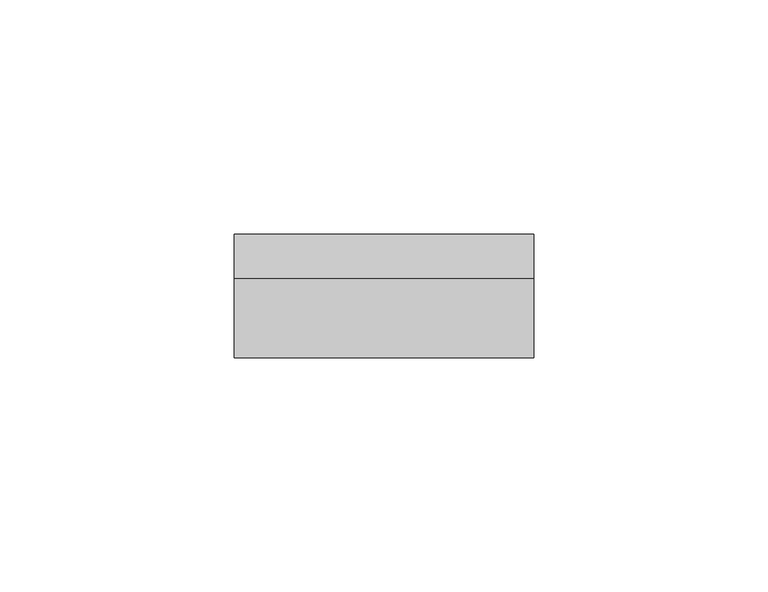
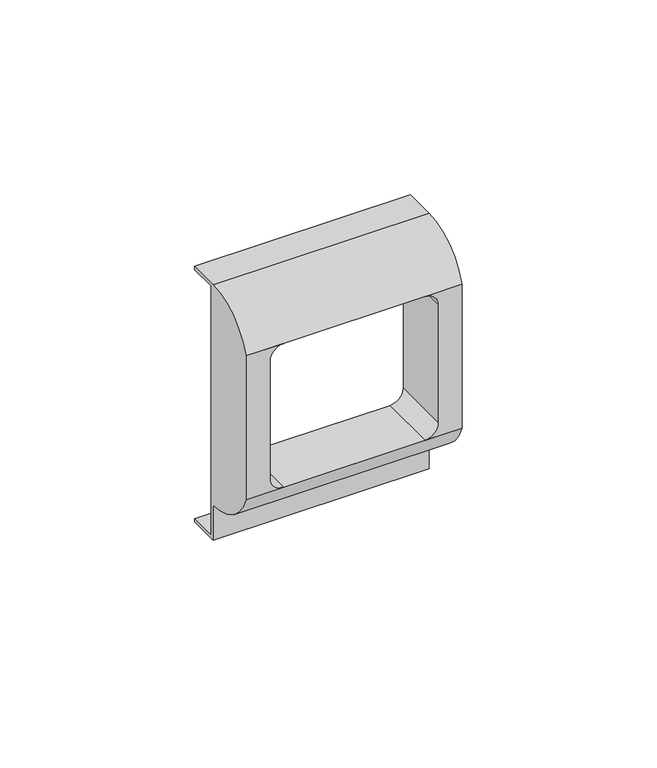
"""IFC4 building model written with IfcOpenShell, lengths in millimetres: proxy geometry, КНС_РамкаСуппорт_ILC_DKC : 45х45."""

import ifcopenshell
import ifcopenshell.guid

model = None  # the IFC model being written
_history = None  # IfcOwnerHistory: only IFC2X3 demands one
_inside = {}  # id of a spatial element -> (the spatial element, [elements in it])
_under = {}  # id of a project, library or spatial element -> (it, [spatial elements below it])
_declared = {}  # id of a project -> (the project, [libraries it declares])
_typed = {}  # id of a type object -> (the type object, [elements of that type])
_made_of = {}  # id of a material, layer set ... -> (it, [elements and type objects made of it])


def new_model(schema):
    """Start an empty IFC model of exactly this schema.

    Asked for "IFC4X3", IfcOpenShell would pick the latest addendum, in which some entities
    have other attributes; the version numbers below select the first issue.
    IFC2X3 requires an IfcOwnerHistory on every rooted entity: one is made here for all.
    """
    global model, _history
    if schema == "IFC4X3":
        model = ifcopenshell.file(schema_version=(4, 3, 0, 0))
    else:
        model = ifcopenshell.file(schema=schema)
    _inside.clear()
    _under.clear()
    _declared.clear()
    _typed.clear()
    _made_of.clear()
    _history = None
    if model.schema == "IFC2X3":
        org = make("IfcOrganization", Name="unknown")
        user = make(
            "IfcPersonAndOrganization",
            ThePerson=make("IfcPerson", FamilyName="unknown"),
            TheOrganization=org,
        )
        app = make(
            "IfcApplication",
            ApplicationDeveloper=org,
            Version="unknown",
            ApplicationFullName="unknown",
            ApplicationIdentifier="unknown",
        )
        _history = make(
            "IfcOwnerHistory",
            OwningUser=user,
            OwningApplication=app,
            ChangeAction="ADDED",
            CreationDate=0,
        )
    return model


def make(cls, **values):
    """One entity of the class cls with the attributes given. An attribute that is None is left unset."""
    return model.create_entity(
        cls, **{name: value for name, value in values.items() if value is not None}
    )


def rooted(cls, **values):
    """An entity with a GlobalId (a new one), such as an element, a storey or a relation."""
    return make(cls, GlobalId=ifcopenshell.guid.new(), OwnerHistory=_history, **values)


def si_unit(unit_type, name, prefix=None):
    """IfcSIUnit, for example si_unit("LENGTHUNIT", "METRE", prefix="MILLI")."""
    return make("IfcSIUnit", UnitType=unit_type, Prefix=prefix, Name=name)


def assignment(units):
    """IfcUnitAssignment: the units of a project."""
    return None if units is None else make("IfcUnitAssignment", Units=units)


def point(xyz):
    """IfcCartesianPoint."""
    return None if xyz is None else make("IfcCartesianPoint", Coordinates=xyz)


def direction(xyz):
    """IfcDirection."""
    return None if xyz is None else make("IfcDirection", DirectionRatios=xyz)


def frame(location, z_axis=None, x_axis=None):
    """IfcAxis2Placement3D, a coordinate frame: its origin and axes. An axis left out is left unset."""
    return make(
        "IfcAxis2Placement3D",
        Location=point(location),
        Axis=direction(z_axis),
        RefDirection=direction(x_axis),
    )


def origin():
    """The frame at (0, 0, 0) with its axes left unset."""
    return frame((0.0, 0.0, 0.0))


def place(relative_to, where):
    """IfcLocalPlacement: puts the frame where relative to a parent placement (None: the world)."""
    return make(
        "IfcLocalPlacement", PlacementRelTo=relative_to, RelativePlacement=where
    )


def context(
    kind, dimensions, precision=None, world=None, true_north=None, identifier=None
):
    """IfcGeometricRepresentationContext, for example the 3D "Model" context."""
    return make(
        "IfcGeometricRepresentationContext",
        ContextIdentifier=identifier,
        ContextType=kind,
        CoordinateSpaceDimension=dimensions,
        Precision=precision,
        WorldCoordinateSystem=world,
        TrueNorth=true_north,
    )


def project(units=None, contexts=None):
    """IfcProject with its units and contexts."""
    return rooted(
        "IfcProject",
        Name="project",
        RepresentationContexts=contexts,
        UnitsInContext=assignment(units),
    )


def spatial(cls, under=None, at=None, **own):
    """A site, building, storey or space (cls), placed at a placement, below another one or the project."""
    s = rooted(cls, ObjectPlacement=at, **own)
    if under is not None:
        _under.setdefault(under.id(), (under, []))[1].append(s)
    return s


def polyline(points):
    """IfcPolyline through the points."""
    return make("IfcPolyline", Points=[point(p) for p in points])


def circle_curve(where, radius):
    """IfcCircle in the frame where."""
    return make("IfcCircle", Position=where, Radius=radius)


def shape(context_of_items, identifier, shape_type, items):
    """IfcShapeRepresentation: the items that make up one representation, for example the "Body"."""
    return make(
        "IfcShapeRepresentation",
        ContextOfItems=context_of_items,
        RepresentationIdentifier=identifier,
        RepresentationType=shape_type,
        Items=items,
    )


def source(mapping_origin, context_of_items, identifier, shape_type, items):
    """IfcRepresentationMap: a shape defined once, which mapped items show again and again."""
    return make(
        "IfcRepresentationMap",
        MappingOrigin=mapping_origin,
        MappedRepresentation=shape(context_of_items, identifier, shape_type, items),
    )


def transform(
    local_origin,
    x_axis=None,
    y_axis=None,
    z_axis=None,
    scale=None,
    scale2=None,
    scale3=None,
    uniform=True,
):
    """IfcCartesianTransformationOperator3D, or its non-uniform kind. x_axis, y_axis, z_axis: its Axis1, 2, 3."""
    if uniform:
        return make(
            "IfcCartesianTransformationOperator3D",
            Axis1=direction(x_axis),
            Axis2=direction(y_axis),
            LocalOrigin=point(local_origin),
            Scale=scale,
            Axis3=direction(z_axis),
        )
    return make(
        "IfcCartesianTransformationOperator3DnonUniform",
        Axis1=direction(x_axis),
        Axis2=direction(y_axis),
        LocalOrigin=point(local_origin),
        Scale=scale,
        Axis3=direction(z_axis),
        Scale2=scale2,
        Scale3=scale3,
    )


def mapped(mapping_source, mapping_target):
    """IfcMappedItem: shows the shape of a source again, moved by a transform."""
    return make(
        "IfcMappedItem", MappingSource=mapping_source, MappingTarget=mapping_target
    )


def made_of(thing, what):
    """Note that an element or type object is made of a material, layer set ...; save() writes the relation."""
    if what is not None:
        _made_of.setdefault(what.id(), (what, []))[1].append(thing)
    return thing


def element(
    cls,
    number,
    at=None,
    inside=None,
    cuts=None,
    type_object=None,
    material=None,
    context=None,
    identifier="Body",
    shape_type=None,
    held_by="IfcProductDefinitionShape",
    body=None,
    shapes=None,
    **own,
):
    """One element of the class cls, such as IfcWall. Its Tag is "e" and its number.

    at: its placement. inside: the storey or other place that contains it. cuts: it is an
    opening in that element (IfcRelVoidsElement). A single representation is given by context,
    identifier, shape_type and body (its items); several are given by shapes. held_by: the class
    of the entity that holds the representations. save() writes the other relations.
    """
    e = rooted(cls, Tag="e%d" % number, ObjectPlacement=at, **own)
    if body is not None:
        shapes = [shape(context, identifier, shape_type, body)]
    if shapes is not None:
        e.Representation = make(held_by, Representations=shapes)
    if inside is not None:
        _inside.setdefault(inside.id(), (inside, []))[1].append(e)
    if cuts is not None:
        rooted(
            "IfcRelVoidsElement", RelatingBuildingElement=cuts, RelatedOpeningElement=e
        )
    if type_object is not None:
        _typed.setdefault(type_object.id(), (type_object, []))[1].append(e)
    return made_of(e, material)


def aggregate(whole, parts):
    """IfcRelAggregates: a whole, such as a stair, and the parts it consists of."""
    return rooted("IfcRelAggregates", RelatingObject=whole, RelatedObjects=parts)


def save(model, path):
    """Write the relations noted so far, then the file.

    IfcRelAggregates (storeys below a building ...), IfcRelContainedInSpatialStructure (elements
    in a storey), IfcRelDefinesByType, IfcRelAssociatesMaterial and IfcRelDeclares: one each for
    every whole, place, type object, material and project.
    """
    for whole, parts in _under.values():
        aggregate(whole, parts)
    for where, things in _inside.values():
        rooted(
            "IfcRelContainedInSpatialStructure",
            RelatedElements=things,
            RelatingStructure=where,
        )
    for kind, things in _typed.values():
        rooted("IfcRelDefinesByType", RelatedObjects=things, RelatingType=kind)
    for what, things in _made_of.values():
        rooted("IfcRelAssociatesMaterial", RelatedObjects=things, RelatingMaterial=what)
    for by, libraries in _declared.values():
        rooted("IfcRelDeclares", RelatingContext=by, RelatedDefinitions=libraries)
    model.write(path)


def plane_surface(at):
    """IfcPlane: the flat surface through the origin of the frame at, square to its z axis."""
    return make("IfcPlane", Position=at)


def cylinder_surface(at, radius):
    """IfcCylindricalSurface: all points at the distance radius from the z axis of the frame at."""
    return make("IfcCylindricalSurface", Position=at, Radius=radius)


def revolved_surface(curve, axis_point, axis_direction):
    """IfcSurfaceOfRevolution: the curve turned about the line through axis_point along axis_direction."""
    return make(
        "IfcSurfaceOfRevolution",
        SweptCurve=make("IfcArbitraryOpenProfileDef", ProfileType="CURVE", Curve=curve),
        AxisPosition=make("IfcAxis1Placement", Location=point(axis_point), Axis=direction(axis_direction)),
    )


def advanced_brep(points, edges, surfaces, faces):
    """IfcAdvancedBrep: a solid bounded by faces that lie on surfaces and meet in shared edges.

    An edge is (start, end): straight between two places in points (the first is 0);
    or (start, end, curve); or (start, end, curve, False) where it runs against its curve.
    A face is (place in surfaces, loops), or (place, loops, False) where it looks against
    its surface's normal. A loop lists edges by number (the first is 1), with a minus sign
    where the edge is run from its end to its start. The first loop is the outer one.
    """
    corners = [point(p) for p in points]
    vertices = [make("IfcVertexPoint", VertexGeometry=c) for c in corners]
    made = []
    for start, end, *more in edges:
        made.append(
            make(
                "IfcEdgeCurve",
                EdgeStart=vertices[start],
                EdgeEnd=vertices[end],
                EdgeGeometry=more[0] if more else make("IfcPolyline", Points=[corners[start], corners[end]]),
                SameSense=more[1] if len(more) > 1 else True,
            )
        )
    hull = []
    for where, loops, *sense in faces:
        bounds = []
        for j, loop in enumerate(loops):
            ring = [make("IfcOrientedEdge", EdgeElement=made[abs(k) - 1], Orientation=k > 0) for k in loop]
            bounds.append(
                make(
                    "IfcFaceOuterBound" if j == 0 else "IfcFaceBound",
                    Bound=make("IfcEdgeLoop", EdgeList=ring),
                    Orientation=True,
                )
            )
        hull.append(make("IfcAdvancedFace", Bounds=bounds, FaceSurface=surfaces[where], SameSense=sense[0] if sense else True))
    return make("IfcAdvancedBrep", Outer=make("IfcClosedShell", CfsFaces=hull))


def electrical_fixtures_c1d9d696(model_context):
    return source(origin(), model_context, "Body", "AdvancedBrep", [
        advanced_brep(
        [(32.0, 8.4, 39.0), (32.0, 8.4, 40.0), (32.0, -1.0, 40.0), (32.0, -18.0, 28.0), (32.0, -18.0, -17.0), (32.0, -1.0, -29.0), (32.0, -1.0, -40.0), (32.0, 8.4, -40.0), (32.0, 8.4, -39.0), (32.0, 0.0, -39.0), (32.0, 0.0, 39.0), (-32.0, 8.4, 39.0), (-32.0, 0.0, 39.0), (-32.0, 0.0, -39.0), (-32.0, 8.4, -39.0), (-32.0, 8.4, -40.0), (-32.0, -1.0, -40.0), (-32.0, -1.0, -29.0), (-32.0, -18.0, -17.0), (-32.0, -18.0, 28.0), (-32.0, -1.0, 40.0), (-32.0, 8.4, 40.0), (20.9686648, -18.0, 28.0), (25.0, -18.0, 23.9686648), (25.0, -18.0, -12.9686648), (20.9686648, -18.0, -17.0), (-20.9686648, -18.0, -17.0), (-25.0, -18.0, -12.9686648), (-25.0, -18.0, 23.9686648), (-20.9686648, -18.0, 28.0), (20.9686648, 0.0, 28.0), (-20.9686648, 0.0, 28.0), (-25.0, 0.0, 23.9686648), (-25.0, 0.0, -12.9686648), (-20.9686648, 0.0, -17.0), (20.9686648, 0.0, -17.0), (25.0, 0.0, -12.9686648), (25.0, 0.0, 23.9686648)],
        [
            (0, 1),
            (1, 2),
            (2, 3, circle_curve(frame((32.0, -1.0, 21.9583333), z_axis=(1.0, 0.0, 0.0), x_axis=(0.0, 1.0, 0.0)), 18.0416667)),
            (3, 4),
            (4, 5, circle_curve(frame((32.0, -1.0, -10.9583333), z_axis=(1.0, 0.0, 0.0), x_axis=(0.0, 1.0, 0.0)), 18.0416667)),
            (5, 6),
            (6, 7),
            (7, 8),
            (8, 9),
            (9, 10),
            (10, 0),
            (11, 12),
            (12, 13),
            (13, 14),
            (14, 15),
            (15, 16),
            (16, 17),
            (17, 18, circle_curve(frame((-32.0, -1.0, -10.9583333), z_axis=(-1.0, 0.0, 0.0), x_axis=(0.0, 1.0, 0.0)), 18.0416667)),
            (18, 19),
            (19, 20, circle_curve(frame((-32.0, -1.0, 21.9583333), z_axis=(-1.0, 0.0, 0.0), x_axis=(0.0, 1.0, 0.0)), 18.0416667)),
            (20, 21),
            (21, 11),
            (0, 11),
            (21, 1),
            (20, 2),
            (3, 22),
            (22, 23, circle_curve(frame((20.9686648, -18.0, 23.9686648), z_axis=(0.0, 1.0, 0.0), x_axis=(1.0, 0.0, 0.0)), 4.0313352)),
            (23, 24),
            (24, 25, circle_curve(frame((20.9686648, -18.0, -12.9686648), z_axis=(0.0, 1.0, 0.0), x_axis=(1.0, 0.0, 0.0)), 4.0313352)),
            (25, 4),
            (18, 26),
            (26, 27, circle_curve(frame((-20.9686648, -18.0, -12.9686648), z_axis=(0.0, 1.0, 0.0), x_axis=(1.0, 0.0, 0.0)), 4.0313352)),
            (27, 28),
            (28, 29, circle_curve(frame((-20.9686648, -18.0, 23.9686648), z_axis=(0.0, 1.0, 0.0), x_axis=(1.0, 0.0, 0.0)), 4.0313352)),
            (29, 19),
            (5, 17),
            (16, 6),
            (15, 7),
            (14, 8),
            (13, 9),
            (12, 10),
            (30, 31),
            (31, 32, circle_curve(frame((-20.9686648, 0.0, 23.9686648), z_axis=(0.0, -1.0, 0.0), x_axis=(1.0, 0.0, 0.0)), 4.0313352)),
            (32, 33),
            (33, 34, circle_curve(frame((-20.9686648, 0.0, -12.9686648), z_axis=(0.0, -1.0, 0.0), x_axis=(1.0, 0.0, 0.0)), 4.0313352)),
            (34, 35),
            (35, 36, circle_curve(frame((20.9686648, 0.0, -12.9686648), z_axis=(0.0, -1.0, 0.0), x_axis=(1.0, 0.0, 0.0)), 4.0313352)),
            (36, 37),
            (37, 30, circle_curve(frame((20.9686648, 0.0, 23.9686648), z_axis=(0.0, -1.0, 0.0), x_axis=(1.0, 0.0, 0.0)), 4.0313352)),
            (29, 22),
            (25, 26),
            (29, 31),
            (30, 22),
            (28, 32),
            (27, 33),
            (26, 34),
            (25, 35),
            (24, 36),
            (23, 37),
        ],
        [
            plane_surface(frame((32.0, 8.4, 40.0), z_axis=(1.0, 0.0, 0.0), x_axis=(0.0, 0.0, 1.0))),
            plane_surface(frame((-32.0, 8.4, 40.0), z_axis=(-1.0, 0.0, 0.0), x_axis=(0.0, 0.0, -1.0))),
            plane_surface(frame((32.0, 8.4, 39.0), z_axis=(0.0, 1.0, 0.0), x_axis=(-1.0, 0.0, 0.0))),
            plane_surface(frame((32.0, 8.4, 40.0), z_axis=(0.0, 0.0, 1.0), x_axis=(-1.0, 0.0, 0.0))),
            plane_surface(frame((32.0, -18.0, 28.0), z_axis=(0.0, -1.0, 0.0), x_axis=(-1.0, 0.0, 0.0))),
            plane_surface(frame((32.0, -1.0, -29.0), z_axis=(0.0, -1.0, 0.0), x_axis=(-1.0, 0.0, 0.0))),
            plane_surface(frame((32.0, -1.0, -40.0), z_axis=(0.0, 0.0, -1.0), x_axis=(-1.0, 0.0, 0.0))),
            plane_surface(frame((32.0, 8.4, -40.0), z_axis=(0.0, 1.0, 0.0), x_axis=(-1.0, 0.0, 0.0))),
            plane_surface(frame((32.0, 8.4, -39.0), z_axis=(0.0, 0.0, 1.0), x_axis=(-1.0, 0.0, 0.0))),
            plane_surface(frame((32.0, 0.0, -39.0), z_axis=(0.0, 1.0, 0.0), x_axis=(-1.0, 0.0, 0.0))),
            plane_surface(frame((32.0, 0.0, 39.0), z_axis=(0.0, 0.0, -1.0), x_axis=(-1.0, 0.0, 0.0))),
            cylinder_surface(frame((-32.0, -1.0, 21.9583333), z_axis=(1.0, 0.0, 0.0), x_axis=(0.0, 1.0, 0.0)), 18.0416667),
            cylinder_surface(frame((-32.0, -1.0, -10.9583333), z_axis=(1.0, 0.0, 0.0), x_axis=(0.0, 1.0, 0.0)), 18.0416667),
            plane_surface(frame((20.9686648, -18.0, 28.0), z_axis=(0.0, 0.0, -1.0), x_axis=(0.0, 1.0, 0.0))),
            revolved_surface(polyline([(-16.937329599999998, -18.0, 23.9686648), (-16.937329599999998, 0.0, 23.9686648)]), (-20.9686648, 0.0, 23.9686648), (0.0, -1.0, 0.0)),
            plane_surface(frame((-25.0, -18.0, 23.9686648), z_axis=(1.0, 0.0, 0.0), x_axis=(0.0, 1.0, 0.0))),
            revolved_surface(polyline([(-16.937329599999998, -18.0, -12.9686648), (-16.937329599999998, 0.0, -12.9686648)]), (-20.9686648, 0.0, -12.9686648), (0.0, -1.0, 0.0)),
            plane_surface(frame((-20.9686648, -18.0, -17.0), z_axis=(0.0, 0.0, 1.0), x_axis=(0.0, 1.0, 0.0))),
            revolved_surface(polyline([(25.0, -18.0, -12.9686648), (25.0, 0.0, -12.9686648)]), (20.9686648, 0.0, -12.9686648), (0.0, -1.0, 0.0)),
            plane_surface(frame((25.0, -18.0, -12.9686648), z_axis=(-1.0, 0.0, 0.0), x_axis=(0.0, 1.0, 0.0))),
            revolved_surface(polyline([(25.0, -18.0, 23.9686648), (25.0, 0.0, 23.9686648)]), (20.9686648, 0.0, 23.9686648), (0.0, -1.0, 0.0)),
        ],
        [
            (0, [[1, 2, 3, 4, 5, 6, 7, 8, 9, 10, 11]]),
            (1, [[12, 13, 14, 15, 16, 17, 18, 19, 20, 21, 22]]),
            (2, [[-1, 23, -22, 24]]),
            (3, [[-2, -24, -21, 25]]),
            (4, [[-4, 26, 27, 28, 29, 30]]),
            (4, [[-19, 31, 32, 33, 34, 35]]),
            (5, [[-6, 36, -17, 37]]),
            (6, [[-7, -37, -16, 38]]),
            (7, [[-8, -38, -15, 39]]),
            (8, [[-9, -39, -14, 40]]),
            (9, [[-10, -40, -13, 41], [42, 43, 44, 45, 46, 47, 48, 49]]),
            (10, [[-11, -41, -12, -23]]),
            (11, [[-3, -25, -20, -35, 50, -26]]),
            (12, [[-5, -30, 51, -31, -18, -36]]),
            (13, [[52, -42, 53, -50]]),
            (14, [[-52, -34, 54, -43]]),
            (15, [[-54, -33, 55, -44]]),
            (16, [[-55, -32, 56, -45]]),
            (17, [[-56, -51, 57, -46]]),
            (18, [[-57, -29, 58, -47]]),
            (19, [[-58, -28, 59, -48]]),
            (20, [[-53, -49, -59, -27]]),
        ],
    ),
    ])


if __name__ == "__main__":
    model = new_model("IFC4")
    model_context = context("Model", 3, world=origin())
    ifc_project = project(units=[si_unit("LENGTHUNIT", "METRE", prefix="MILLI")], contexts=[model_context])
    site = spatial("IfcSite", under=ifc_project)
    building = spatial("IfcBuilding", under=site)
    placement = place(None, origin())
    electrical_fixtures_shape = electrical_fixtures_c1d9d696(model_context)
    element("IfcBuildingElementProxy", 1, Name="КНС_РамкаСуппорт_ILC_DKC : 45х45", ObjectType="КНС_РамкаСуппорт_ILC_DKC : 45х45", at=placement, inside=building, context=model_context, shape_type="MappedRepresentation", body=[
        mapped(electrical_fixtures_shape, transform((0.0, 0.0, 0.0), x_axis=(1.0, 0.0, 0.0), y_axis=(0.0, 1.0, 0.0), z_axis=(0.0, 0.0, 1.0))),
    ])
    save(model, "model.ifc")
